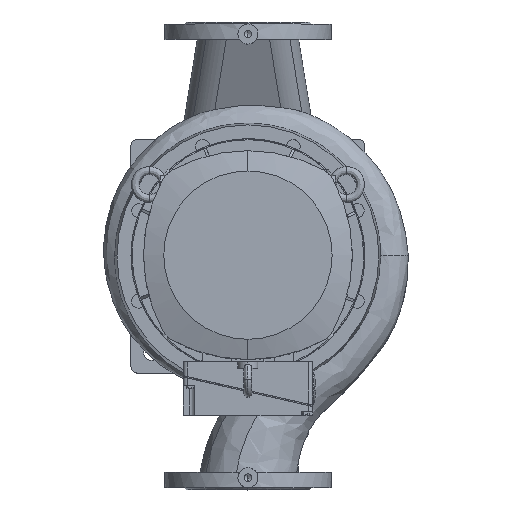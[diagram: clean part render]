
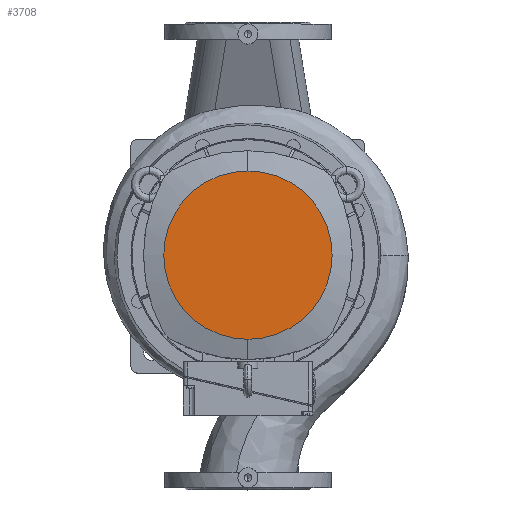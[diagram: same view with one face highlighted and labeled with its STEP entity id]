
A CAD part, top view. The second image highlights one B-rep face of the part: STEP entity #3708.
In plain terms, the highlighted planar face has unit normal (0, 0, 1).
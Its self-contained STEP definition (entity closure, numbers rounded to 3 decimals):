
#3708=ADVANCED_FACE('',(#7596),#7597,.T.);
#7596=FACE_OUTER_BOUND('',#14261,.T.);
#7597=PLANE('',#14262);
#14261=EDGE_LOOP('',(#24125,#24126,#24127));
#14262=AXIS2_PLACEMENT_3D('',#24128,#24129,#24130);
#24125=ORIENTED_EDGE('',*,*,#26592,.T.);
#24126=ORIENTED_EDGE('',*,*,#26522,.T.);
#24127=ORIENTED_EDGE('',*,*,#26593,.T.);
#24128=CARTESIAN_POINT('',(0.343,33.0,285.375));
#24129=DIRECTION('',(0.0,0.0,1.0));
#24130=DIRECTION('',(1.0,0.0,0.0));
#26522=EDGE_CURVE('',#30643,#30640,#30644,.T.);
#26592=EDGE_CURVE('',#30753,#30643,#30754,.T.);
#26593=EDGE_CURVE('',#30640,#30753,#30755,.T.);
#30640=VERTEX_POINT('',#37758);
#30643=VERTEX_POINT('',#37762);
#30644=CIRCLE('',#37763,126.0);
#30753=VERTEX_POINT('',#38550);
#30754=CIRCLE('',#38551,126.0);
#30755=CIRCLE('',#38552,126.0);
#37758=CARTESIAN_POINT('',(0.,159.0,285.375));
#37762=CARTESIAN_POINT('',(0.,-93.,285.375));
#37763=AXIS2_PLACEMENT_3D('',#49189,#49190,#49191);
#38550=CARTESIAN_POINT('',(-126.0,33.0,285.375));
#38551=AXIS2_PLACEMENT_3D('',#49280,#49281,#49282);
#38552=AXIS2_PLACEMENT_3D('',#49283,#49284,#49285);
#49189=CARTESIAN_POINT('',(0.0,33.0,285.375));
#49190=DIRECTION('',(0.0,0.0,1.0));
#49191=DIRECTION('',(-1.0,0.0,0.0));
#49280=CARTESIAN_POINT('',(0.0,33.0,285.375));
#49281=DIRECTION('',(0.0,0.0,1.0));
#49282=DIRECTION('',(-1.0,0.0,0.0));
#49283=CARTESIAN_POINT('',(0.0,33.0,285.375));
#49284=DIRECTION('',(0.0,0.0,1.0));
#49285=DIRECTION('',(-1.0,0.0,0.0));
